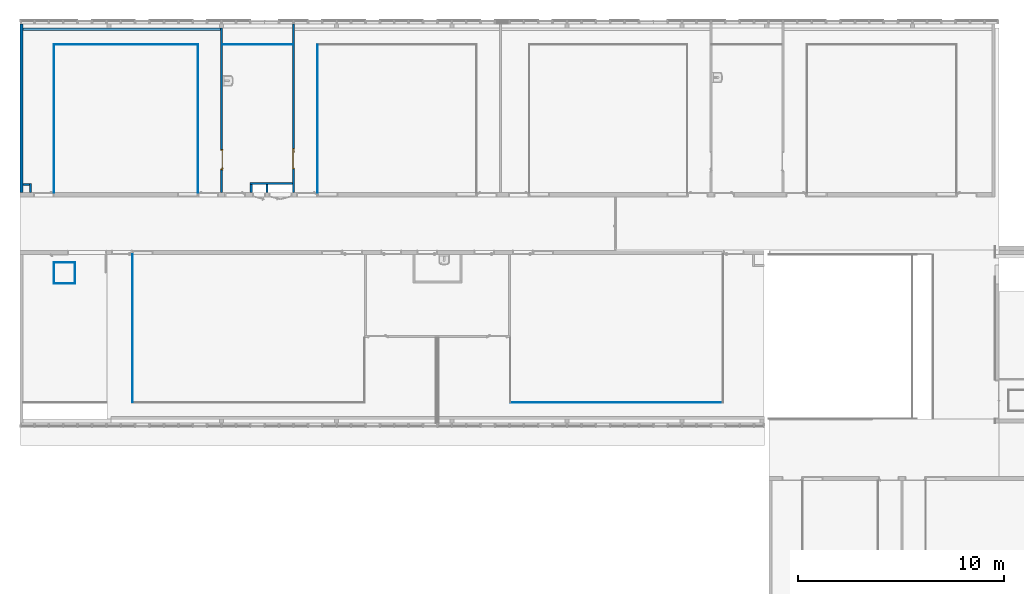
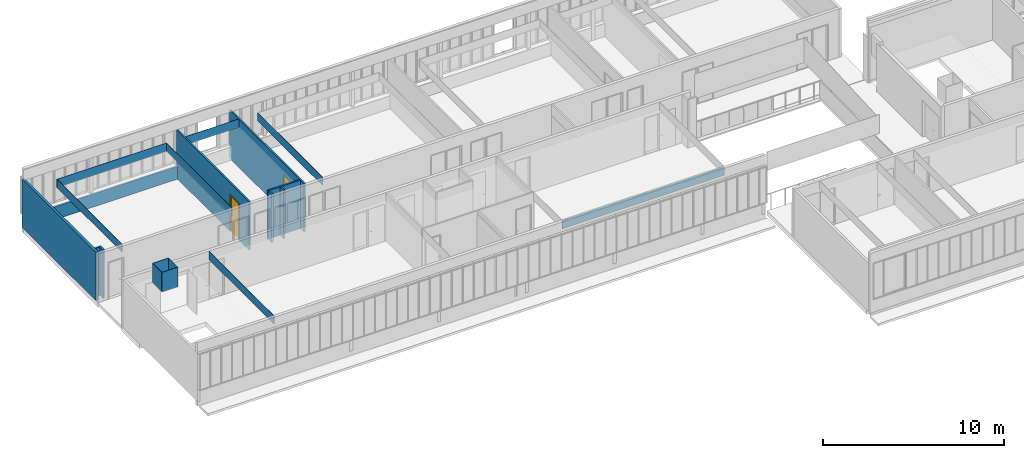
# One storey, part 28 of 87: 20 walls, 2 doors, 2 openings.
"""IFC2X3 building model written with IfcOpenShell, lengths in centimetres."""

import ifcopenshell
import ifcopenshell.guid

model = None  # the IFC model being written
_history = None  # IfcOwnerHistory: only IFC2X3 demands one
_inside = {}  # id of a spatial element -> (the spatial element, [elements in it])
_under = {}  # id of a project, library or spatial element -> (it, [spatial elements below it])
_declared = {}  # id of a project -> (the project, [libraries it declares])
_typed = {}  # id of a type object -> (the type object, [elements of that type])
_made_of = {}  # id of a material, layer set ... -> (it, [elements and type objects made of it])


def new_model(schema):
    """Start an empty IFC model of exactly this schema.

    Asked for "IFC4X3", IfcOpenShell would pick the latest addendum, in which some entities
    have other attributes; the version numbers below select the first issue.
    IFC2X3 requires an IfcOwnerHistory on every rooted entity: one is made here for all.
    """
    global model, _history
    if schema == "IFC4X3":
        model = ifcopenshell.file(schema_version=(4, 3, 0, 0))
    else:
        model = ifcopenshell.file(schema=schema)
    _inside.clear()
    _under.clear()
    _declared.clear()
    _typed.clear()
    _made_of.clear()
    _history = None
    if model.schema == "IFC2X3":
        org = make("IfcOrganization", Name="unknown")
        user = make(
            "IfcPersonAndOrganization",
            ThePerson=make("IfcPerson", FamilyName="unknown"),
            TheOrganization=org,
        )
        app = make(
            "IfcApplication",
            ApplicationDeveloper=org,
            Version="unknown",
            ApplicationFullName="unknown",
            ApplicationIdentifier="unknown",
        )
        _history = make(
            "IfcOwnerHistory",
            OwningUser=user,
            OwningApplication=app,
            ChangeAction="ADDED",
            CreationDate=0,
        )
    return model


def make(cls, **values):
    """One entity of the class cls with the attributes given. An attribute that is None is left unset."""
    return model.create_entity(
        cls, **{name: value for name, value in values.items() if value is not None}
    )


def entity(cls, *values):
    """Any entity or typed value of the class cls, its attributes in the order of the schema. None: left unset."""
    e = model.create_entity(cls)
    for i, value in enumerate(values):
        if value is not None:
            e[i] = value
    return e


def rooted(cls, **values):
    """An entity with a GlobalId (a new one), such as an element, a storey or a relation."""
    return make(cls, GlobalId=ifcopenshell.guid.new(), OwnerHistory=_history, **values)


def si_unit(unit_type, name, prefix=None):
    """IfcSIUnit, for example si_unit("LENGTHUNIT", "METRE", prefix="MILLI")."""
    return make("IfcSIUnit", UnitType=unit_type, Prefix=prefix, Name=name)


def converted_unit(unit_type, name, factor, base, dimensions=None, offset=None):
    """IfcConversionBasedUnit, such as the inch: factor (a typed value) times the base unit."""
    return make(
        "IfcConversionBasedUnit"
        if offset is None
        else "IfcConversionBasedUnitWithOffset",
        ConversionOffset=offset,
        Dimensions=None
        if dimensions is None
        else entity("IfcDimensionalExponents", *dimensions),
        UnitType=unit_type,
        Name=name,
        ConversionFactor=make(
            "IfcMeasureWithUnit", ValueComponent=factor, UnitComponent=base
        ),
    )


def derived_unit(unit_type, elements):
    """IfcDerivedUnit: a product of units, each with its exponent."""
    return make(
        "IfcDerivedUnit",
        Elements=[
            make("IfcDerivedUnitElement", Unit=unit, Exponent=power)
            for unit, power in elements
        ],
        UnitType=unit_type,
    )


def assignment(units):
    """IfcUnitAssignment: the units of a project."""
    return None if units is None else make("IfcUnitAssignment", Units=units)


def point(xyz):
    """IfcCartesianPoint."""
    return None if xyz is None else make("IfcCartesianPoint", Coordinates=xyz)


def direction(xyz):
    """IfcDirection."""
    return None if xyz is None else make("IfcDirection", DirectionRatios=xyz)


def frame(location, z_axis=None, x_axis=None):
    """IfcAxis2Placement3D, a coordinate frame: its origin and axes. An axis left out is left unset."""
    return make(
        "IfcAxis2Placement3D",
        Location=point(location),
        Axis=direction(z_axis),
        RefDirection=direction(x_axis),
    )


def frame_2d(location, x_axis=None):
    """IfcAxis2Placement2D, a coordinate frame in the plane: its origin and x axis."""
    return make(
        "IfcAxis2Placement2D", Location=point(location), RefDirection=direction(x_axis)
    )


def origin():
    """The frame at (0, 0, 0) with its axes left unset."""
    return frame((0.0, 0.0, 0.0))


def place(relative_to, where):
    """IfcLocalPlacement: puts the frame where relative to a parent placement (None: the world)."""
    return make(
        "IfcLocalPlacement", PlacementRelTo=relative_to, RelativePlacement=where
    )


def context(
    kind, dimensions, precision=None, world=None, true_north=None, identifier=None
):
    """IfcGeometricRepresentationContext, for example the 3D "Model" context."""
    return make(
        "IfcGeometricRepresentationContext",
        ContextIdentifier=identifier,
        ContextType=kind,
        CoordinateSpaceDimension=dimensions,
        Precision=precision,
        WorldCoordinateSystem=world,
        TrueNorth=true_north,
    )


def subcontext(parent, identifier, kind, view, scale=None):
    """IfcGeometricRepresentationSubContext, for example "Body" below "Model"."""
    return make(
        "IfcGeometricRepresentationSubContext",
        ContextIdentifier=identifier,
        ContextType=kind,
        ParentContext=parent,
        TargetScale=scale,
        TargetView=view,
    )


def project(units=None, contexts=None):
    """IfcProject with its units and contexts."""
    return rooted(
        "IfcProject",
        Name="project",
        RepresentationContexts=contexts,
        UnitsInContext=assignment(units),
    )


def spatial(cls, under=None, at=None, **own):
    """A site, building, storey or space (cls), placed at a placement, below another one or the project."""
    s = rooted(cls, ObjectPlacement=at, **own)
    if under is not None:
        _under.setdefault(under.id(), (under, []))[1].append(s)
    return s


def profile(cls, at=None, kind="AREA", **sizes):
    """A parametric profile (cls). Its sizes go by their IFC names, for example OverallWidth=200.0."""
    return make(cls, ProfileType=kind, Position=at, **sizes)


def rectangle(**sizes):
    """IfcRectangleProfileDef."""
    return profile("IfcRectangleProfileDef", **sizes)


def extrude(swept, where, along, depth):
    """IfcExtrudedAreaSolid: the profile swept, set in the frame where, extruded along a direction by depth."""
    return make(
        "IfcExtrudedAreaSolid",
        SweptArea=swept,
        Position=where,
        ExtrudedDirection=direction(along),
        Depth=depth,
    )


def faces_of(points, faces, orient=None, outer=None):
    """IfcFace entities. A face is a list of loops; a loop is a list of indices into points, from 0.

    orient and outer hold one flag for each loop. By default every Orientation is true, the
    first loop of a face is its IfcFaceOuterBound and the others are IfcFaceBound.
    """
    made = []
    for i, loops in enumerate(faces):
        bounds = []
        for j, loop in enumerate(loops):
            is_outer = j == 0 if outer is None else outer[i][j]
            bounds.append(
                make(
                    "IfcFaceOuterBound" if is_outer else "IfcFaceBound",
                    Bound=make("IfcPolyLoop", Polygon=[points[k] for k in loop]),
                    Orientation=True if orient is None else orient[i][j],
                )
            )
        made.append(make("IfcFace", Bounds=bounds))
    return made


def faceted_brep(points, faces, orient=None, outer=None, voids=None):
    """IfcFacetedBrep: a solid bounded by flat faces; with voids (closed shells), ...WithVoids."""
    shared = [point(p) for p in points]
    hull = make("IfcClosedShell", CfsFaces=faces_of(shared, faces, orient, outer))
    if voids is None:
        return make("IfcFacetedBrep", Outer=hull)
    return make(
        "IfcFacetedBrepWithVoids",
        Outer=hull,
        Voids=[
            make(cls, CfsFaces=faces_of(shared, fs, o, b)) for cls, fs, o, b in voids
        ],
    )


def shape(context_of_items, identifier, shape_type, items):
    """IfcShapeRepresentation: the items that make up one representation, for example the "Body"."""
    return make(
        "IfcShapeRepresentation",
        ContextOfItems=context_of_items,
        RepresentationIdentifier=identifier,
        RepresentationType=shape_type,
        Items=items,
    )


def source(mapping_origin, context_of_items, identifier, shape_type, items):
    """IfcRepresentationMap: a shape defined once, which mapped items show again and again."""
    return make(
        "IfcRepresentationMap",
        MappingOrigin=mapping_origin,
        MappedRepresentation=shape(context_of_items, identifier, shape_type, items),
    )


def transform(
    local_origin,
    x_axis=None,
    y_axis=None,
    z_axis=None,
    scale=None,
    scale2=None,
    scale3=None,
    uniform=True,
):
    """IfcCartesianTransformationOperator3D, or its non-uniform kind. x_axis, y_axis, z_axis: its Axis1, 2, 3."""
    if uniform:
        return make(
            "IfcCartesianTransformationOperator3D",
            Axis1=direction(x_axis),
            Axis2=direction(y_axis),
            LocalOrigin=point(local_origin),
            Scale=scale,
            Axis3=direction(z_axis),
        )
    return make(
        "IfcCartesianTransformationOperator3DnonUniform",
        Axis1=direction(x_axis),
        Axis2=direction(y_axis),
        LocalOrigin=point(local_origin),
        Scale=scale,
        Axis3=direction(z_axis),
        Scale2=scale2,
        Scale3=scale3,
    )


def mapped(mapping_source, mapping_target):
    """IfcMappedItem: shows the shape of a source again, moved by a transform."""
    return make(
        "IfcMappedItem", MappingSource=mapping_source, MappingTarget=mapping_target
    )


def material(Name=None, Category=None):
    """IfcMaterial."""
    return make("IfcMaterial", Name=Name, Category=Category)


def material_list(materials):
    """IfcMaterialList."""
    return make("IfcMaterialList", Materials=materials)


def layer(
    of_material, thickness, ventilated=None, Name=None, Category=None, Priority=None
):
    """IfcMaterialLayer: one layer of a wall or slab, of a material (None: an air gap)."""
    return make(
        "IfcMaterialLayer",
        Material=of_material,
        LayerThickness=thickness,
        IsVentilated=ventilated,
        Name=Name,
        Category=Category,
        Priority=Priority,
    )


def layer_set(layers, Name=None):
    """IfcMaterialLayerSet."""
    return make("IfcMaterialLayerSet", MaterialLayers=layers, LayerSetName=Name)


def layer_usage(for_layer_set, set_direction, sense, offset, extent=None):
    """IfcMaterialLayerSetUsage: how a layer set lies in its element."""
    return make(
        "IfcMaterialLayerSetUsage",
        ForLayerSet=for_layer_set,
        LayerSetDirection=set_direction,
        DirectionSense=sense,
        OffsetFromReferenceLine=offset,
        ReferenceExtent=extent,
    )


def made_of(thing, what):
    """Note that an element or type object is made of a material, layer set ...; save() writes the relation."""
    if what is not None:
        _made_of.setdefault(what.id(), (what, []))[1].append(thing)
    return thing


def type_object(cls, material=None, **own):
    """A type object (cls), such as IfcWallType, which elements share."""
    return made_of(rooted(cls, **own), material)


def type_shapes(of_type, sources):
    """Give a type object the sources (RepresentationMaps) that its elements show as mapped items."""
    of_type.RepresentationMaps = sources


def element(
    cls,
    number,
    at=None,
    inside=None,
    cuts=None,
    type_object=None,
    material=None,
    context=None,
    identifier="Body",
    shape_type=None,
    held_by="IfcProductDefinitionShape",
    body=None,
    shapes=None,
    **own,
):
    """One element of the class cls, such as IfcWall. Its Tag is "e" and its number.

    at: its placement. inside: the storey or other place that contains it. cuts: it is an
    opening in that element (IfcRelVoidsElement). A single representation is given by context,
    identifier, shape_type and body (its items); several are given by shapes. held_by: the class
    of the entity that holds the representations. save() writes the other relations.
    """
    e = rooted(cls, Tag="e%d" % number, ObjectPlacement=at, **own)
    if body is not None:
        shapes = [shape(context, identifier, shape_type, body)]
    if shapes is not None:
        e.Representation = make(held_by, Representations=shapes)
    if inside is not None:
        _inside.setdefault(inside.id(), (inside, []))[1].append(e)
    if cuts is not None:
        rooted(
            "IfcRelVoidsElement", RelatingBuildingElement=cuts, RelatedOpeningElement=e
        )
    if type_object is not None:
        _typed.setdefault(type_object.id(), (type_object, []))[1].append(e)
    return made_of(e, material)


def fill(opening, filler):
    """IfcRelFillsElement: the door or window that sits in an opening."""
    return rooted(
        "IfcRelFillsElement",
        RelatingOpeningElement=opening,
        RelatedBuildingElement=filler,
    )


def aggregate(whole, parts):
    """IfcRelAggregates: a whole, such as a stair, and the parts it consists of."""
    return rooted("IfcRelAggregates", RelatingObject=whole, RelatedObjects=parts)


def save(model, path):
    """Write the relations noted so far, then the file.

    IfcRelAggregates (storeys below a building ...), IfcRelContainedInSpatialStructure (elements
    in a storey), IfcRelDefinesByType, IfcRelAssociatesMaterial and IfcRelDeclares: one each for
    every whole, place, type object, material and project.
    """
    for whole, parts in _under.values():
        aggregate(whole, parts)
    for where, things in _inside.values():
        rooted(
            "IfcRelContainedInSpatialStructure",
            RelatedElements=things,
            RelatingStructure=where,
        )
    for kind, things in _typed.values():
        rooted("IfcRelDefinesByType", RelatedObjects=things, RelatingType=kind)
    for what, things in _made_of.values():
        rooted("IfcRelAssociatesMaterial", RelatedObjects=things, RelatingMaterial=what)
    for by, libraries in _declared.values():
        rooted("IfcRelDeclares", RelatingContext=by, RelatedDefinitions=libraries)
    model.write(path)


model = new_model("IFC2X3")

# Units and contexts
model_context = context("Model", 3, precision=0.001, world=origin(), true_north=direction((6.12303176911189e-17, 1.0)))
body_context = subcontext(model_context, "Body", "Model", "MODEL_VIEW")
ifc_project = project(units=[si_unit("LENGTHUNIT", "METRE", prefix="CENTI"), si_unit("AREAUNIT", "SQUARE_METRE"), si_unit("VOLUMEUNIT", "CUBIC_METRE"), converted_unit("PLANEANGLEUNIT", "DEGREE", entity("IfcRatioMeasure", 0.0174532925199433), si_unit("PLANEANGLEUNIT", "RADIAN"), dimensions=[0, 0, 0, 0, 0, 0, 0]), si_unit("MASSUNIT", "GRAM", prefix="KILO"), derived_unit("MASSDENSITYUNIT", [(si_unit("MASSUNIT", "GRAM", prefix="KILO"), 1), (si_unit("LENGTHUNIT", "METRE"), -3)]), si_unit("TIMEUNIT", "SECOND"), si_unit("FREQUENCYUNIT", "HERTZ"), si_unit("THERMODYNAMICTEMPERATUREUNIT", "DEGREE_CELSIUS"), derived_unit("THERMALTRANSMITTANCEUNIT", [(si_unit("MASSUNIT", "GRAM", prefix="KILO"), 1), (si_unit("THERMODYNAMICTEMPERATUREUNIT", "KELVIN"), -1), (si_unit("TIMEUNIT", "SECOND"), -3)]), derived_unit("VOLUMETRICFLOWRATEUNIT", [(si_unit("LENGTHUNIT", "METRE"), 3), (si_unit("TIMEUNIT", "SECOND"), -1)]), si_unit("ELECTRICCURRENTUNIT", "AMPERE"), si_unit("ELECTRICVOLTAGEUNIT", "VOLT"), si_unit("POWERUNIT", "WATT"), si_unit("FORCEUNIT", "NEWTON", prefix="KILO"), si_unit("ILLUMINANCEUNIT", "LUX"), si_unit("LUMINOUSFLUXUNIT", "LUMEN"), si_unit("LUMINOUSINTENSITYUNIT", "CANDELA"), derived_unit("USERDEFINED", [(si_unit("MASSUNIT", "GRAM", prefix="KILO"), -1), (si_unit("LENGTHUNIT", "METRE"), -2), (si_unit("TIMEUNIT", "SECOND"), 3), (si_unit("LUMINOUSFLUXUNIT", "LUMEN"), 1)]), derived_unit("LINEARVELOCITYUNIT", [(si_unit("LENGTHUNIT", "METRE"), 1), (si_unit("TIMEUNIT", "SECOND"), -1)]), si_unit("PRESSUREUNIT", "PASCAL"), derived_unit("USERDEFINED", [(si_unit("LENGTHUNIT", "METRE"), -2), (si_unit("MASSUNIT", "GRAM", prefix="KILO"), 1), (si_unit("TIMEUNIT", "SECOND"), -2)])], contexts=[model_context])

# Site, building, storey
site_placement = place(None, frame((-2781.94577612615, 7442.24238424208, 0.0)))
site = spatial("IfcSite", under=ifc_project, at=site_placement, Name="Default", CompositionType="ELEMENT")
building_placement = place(site_placement, origin())
building = spatial("IfcBuilding", under=site, at=building_placement, CompositionType="ELEMENT")
storey_placement = place(building_placement, frame((0.0, 0.0, 774.0)))
storey = spatial("IfcBuildingStorey", under=building, at=storey_placement, Name="TR - N02 - ARCH", CompositionType="ELEMENT", Elevation=774.0)

# Wall
ifc_material_1 = material(Name="00 - Isolant")
ifc_layer_1 = layer(ifc_material_1, 14.0)
ifc_material_2 = material(Name="01 - Enduit/Plâtre")
ifc_layer_2 = layer(ifc_material_2, 1.3)
ifc_layer_set_1 = layer_set([ifc_layer_1, ifc_layer_2], Name="Mur de base:04 - Parement -  isolant 14 cm + BA13")
ifc_layer_usage_1 = layer_usage(ifc_layer_set_1, "AXIS2", "NEGATIVE", 7.65)
wall_type_1 = type_object("IfcWallType", Name="Mur de base:04 - Parement -  isolant 14 cm + BA13", PredefinedType="STANDARD", material=ifc_layer_set_1)
wall_1_placement = place(storey_placement, frame((-8401.84987766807, -810.048500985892, 0.0), z_axis=(0.0, 0.0, 1.0), x_axis=(0.0, 1.0, 0.0)))
element("IfcWallStandardCase", 1, at=wall_1_placement, inside=storey, type_object=wall_type_1, material=ifc_layer_usage_1, Name="Mur de base:04 - Parement -  isolant 14 cm + BA13", ObjectType="Mur de base:04 - Parement -  isolant 14 cm + BA13", context=body_context, shape_type="SweptSolid", body=[
    extrude(rectangle(XDim=820.048500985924, YDim=15.3000000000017, at=frame_2d((410.024250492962, -1.18127729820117e-13), x_axis=(-1.0, 0.0))), origin(), (0.0, 0.0, 1.0), 326.0),
])

# Wall, opening, door
ifc_layer_3 = layer(ifc_material_2, 1.3)
ifc_layer_4 = layer(ifc_material_1, 7.4)
ifc_layer_5 = layer(ifc_material_2, 1.3)
ifc_layer_set_2 = layer_set([ifc_layer_3, ifc_layer_4, ifc_layer_5], Name="Mur de base:06 - cloisons - Ba13 10cm")
ifc_layer_usage_2 = layer_usage(ifc_layer_set_2, "AXIS2", "NEGATIVE", 5.0)
wall_type_2 = type_object("IfcWallType", Name="Mur de base:06 - cloisons - Ba13 10cm", PredefinedType="STANDARD", material=ifc_layer_set_2)
wall_2_placement = place(storey_placement, frame((-7079.49987760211, -810.048500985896, 0.0), z_axis=(0.0, 0.0, 1.0), x_axis=(0.0, 1.0, 0.0)))
wall_2 = element("IfcWallStandardCase", 2, at=wall_2_placement, inside=storey, type_object=wall_type_2, material=ifc_layer_usage_2, Name="Mur de base:06 - cloisons - Ba13 10cm", ObjectType="Mur de base:06 - cloisons - Ba13 10cm", context=body_context, shape_type="SweptSolid", body=[
    extrude(rectangle(XDim=820.048500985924, YDim=9.99999999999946, at=frame_2d((410.024250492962, 1.06581410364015e-14), x_axis=(-1.0, 0.0))), origin(), (0.0, 0.0, 1.0), 326.0),
])
opening_1_placement = place(wall_2_placement, frame((115.0, -5.0, 0.0)))
opening_1 = element("IfcOpeningElement", 3, at=opening_1_placement, cuts=wall_2, Name="Int. Simple:PP simple (0.93m x 2.50m):1", ObjectType="Opening", context=body_context, shape_type="SweptSolid", body=[
    extrude(rectangle(XDim=248.500000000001, YDim=99.9999999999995, at=frame_2d((124.250000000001, 49.9999999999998), x_axis=(1.0, 0.0))), frame((0.0, 0.0, 0.0), z_axis=(0.0, 1.0, 0.0), x_axis=(0.0, 0.0, 1.0)), (0.0, 0.0, 1.0), 10.0),
])
ifc_material_3 = material(Name="Finition Peinture - Blanc satiné")
ifc_material_4 = material(Name="Bois - Panneau de porte")
ifc_material_5 = material(Name="Bois - Cadre de porte")
ifc_material_list_1 = material_list([ifc_material_3, ifc_material_4, ifc_material_5])
ifc_material_list_2 = material_list([ifc_material_3, ifc_material_4, ifc_material_5])
door_style = type_object("IfcDoorStyle", Name="PP simple (0.93m x 2.50m)", ConstructionType="NOTDEFINED", OperationType="SINGLE_SWING_LEFT", ParameterTakesPrecedence=False, Sizeable=False, material=ifc_material_list_2)
shared_shape = source(origin(), body_context, "Body", "Brep", [
    faceted_brep([(10.5352761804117, -0.500000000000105, 86.6003983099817), (11.5000000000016, -0.500000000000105, 87.0), (11.5000000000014, -0.500000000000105, 108.0), (10.5352761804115, -0.500000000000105, 108.399601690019), (9.50000000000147, -0.500000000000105, 108.535898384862), (8.46472381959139, -0.500000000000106, 108.399601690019), (7.50000000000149, -0.500000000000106, 108.0), (7.50000000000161, -0.500000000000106, 87.0), (8.46472381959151, -0.500000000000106, 86.6003983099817), (9.50000000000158, -0.500000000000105, 86.464101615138), (10.5352761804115, 0.0, 108.399601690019), (11.5000000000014, 0.0, 108.0), (11.5000000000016, 0.0, 87.0), (10.5352761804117, 0.0, 86.6003983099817), (9.50000000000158, 0.0, 86.464101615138), (8.46472381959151, 0.0, 86.6003983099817), (7.50000000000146, 0.0, 87.0), (7.50000000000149, 0.0, 108.0), (8.46472381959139, 0.0, 108.399601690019), (9.50000000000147, 0.0, 108.535898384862)], [[[0, 1, 2, 3, 4, 5, 6, 7, 8, 9]], [[10, 11, 12, 13, 14, 15, 16, 17, 18, 19]], [[16, 15, 8, 7]], [[8, 15, 14, 9]], [[14, 13, 0, 9]], [[13, 12, 1, 0]], [[2, 1, 12, 11]], [[11, 10, 3, 2]], [[3, 10, 19, 4]], [[19, 18, 5, 4]], [[18, 17, 6, 5]], [[7, 6, 17, 16]]]),
    faceted_brep([(10.5352761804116, 4.0, 86.6003983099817), (11.5000000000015, 4.0, 87.0), (11.5000000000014, 4.0, 108.0), (10.5352761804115, 4.0, 108.399601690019), (9.50000000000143, 4.0, 108.535898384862), (8.46472381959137, 4.0, 108.399601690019), (7.50000000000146, 4.0, 108.0), (7.50000000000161, 4.0, 87.0), (8.46472381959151, 4.0, 86.6003983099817), (9.50000000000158, 4.0, 86.464101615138), (10.5352761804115, 4.49999999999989, 108.399601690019), (11.5000000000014, 4.49999999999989, 108.0), (11.5000000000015, 4.49999999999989, 87.0), (10.5352761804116, 4.49999999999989, 86.6003983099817), (9.50000000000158, 4.49999999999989, 86.464101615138), (8.46472381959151, 4.49999999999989, 86.6003983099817), (7.50000000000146, 4.49999999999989, 87.0), (7.50000000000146, 4.49999999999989, 108.0), (8.46472381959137, 4.49999999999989, 108.399601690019), (9.50000000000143, 4.49999999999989, 108.535898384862)], [[[0, 1, 2, 3, 4, 5, 6, 7, 8, 9]], [[10, 11, 12, 13, 14, 15, 16, 17, 18, 19]], [[11, 10, 3, 2]], [[3, 10, 19, 4]], [[19, 18, 5, 4]], [[18, 17, 6, 5]], [[7, 6, 17, 16]], [[16, 15, 8, 7]], [[8, 15, 14, 9]], [[14, 13, 0, 9]], [[13, 12, 1, 0]], [[2, 1, 12, 11]]]),
    faceted_brep([(9.29747013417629, -0.500000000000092, 100.778044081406), (9.70252986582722, -0.50000000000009, 100.778044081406), (10.1000000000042, -0.500000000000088, 100.699999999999), (10.1000000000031, -0.500000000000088, 99.3000000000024), (9.7025298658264, -0.50000000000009, 99.2219559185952), (9.29747013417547, -0.500000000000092, 99.221955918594), (8.8999999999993, -0.500000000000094, 99.2999999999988), (8.89999999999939, -0.500000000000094, 100.7), (8.89999999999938, -3.26509507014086, 100.7), (9.29747013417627, -3.10045754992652, 100.778044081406), (10.9023585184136, -4.70534593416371, 100.778044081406), (11.0701397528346, -4.30028620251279, 100.778044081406), (9.7025298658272, -2.93267631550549, 100.778044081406), (10.1000000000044, -2.76803879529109, 100.7), (10.1000000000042, -2.76803879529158, 99.3000000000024), (9.7025298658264, -2.93267631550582, 99.2219559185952), (11.0701397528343, -4.30028620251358, 99.2219559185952), (10.9023585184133, -4.70534593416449, 99.221955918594), (9.29747013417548, -3.10045754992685, 99.221955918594), (8.89999999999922, -3.26509507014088, 99.2999999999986), (10.7377209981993, -5.10281606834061, 100.7), (11.2347772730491, -3.90281606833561, 100.7), (11.2347772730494, -3.90281606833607, 99.3000000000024), (10.7377209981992, -5.10281606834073, 99.2999999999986), (19.5018640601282, -5.10281606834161, 99.2999999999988), (19.5018640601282, -4.70534593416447, 99.221955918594), (19.5018640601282, -4.30028620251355, 99.2219559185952), (19.5018640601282, -3.9028160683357, 99.3000000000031), (19.5018640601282, -3.90281606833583, 100.7), (19.5018640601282, -4.30028620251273, 100.778044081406), (19.5018640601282, -4.70534593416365, 100.778044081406), (19.5018640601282, -5.10281606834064, 100.699999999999), (14.7307697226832, -5.10281606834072, 100.7), (15.2860019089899, -4.5028160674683, 100.78786867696), (15.3683206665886, -3.9028160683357, 100.7), (15.3683206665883, -3.9028160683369, 99.3000000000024), (15.2860018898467, -4.50281607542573, 99.2121313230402), (14.7307700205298, -5.10281606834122, 99.2999999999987)], [[[0, 1, 2, 3, 4, 5, 6, 7]], [[8, 9, 0, 7]], [[9, 10, 11, 12, 1, 0]], [[12, 13, 2, 1]], [[3, 2, 13, 14]], [[14, 15, 4, 3]], [[15, 16, 17, 18, 5, 4]], [[18, 19, 6, 5]], [[7, 6, 19, 8]], [[20, 10, 9, 8]], [[11, 21, 13, 12]], [[14, 13, 21, 22]], [[22, 16, 15, 14]], [[17, 23, 19, 18]], [[8, 19, 23, 20]], [[24, 25, 26, 27, 28, 29, 30, 31]], [[32, 30, 33]], [[31, 30, 32]], [[10, 20, 32]], [[33, 34, 11]], [[21, 11, 34]], [[34, 29, 28]], [[30, 29, 33]], [[29, 34, 33]], [[10, 32, 33]], [[10, 33, 11]], [[22, 21, 34, 28, 27, 35]], [[35, 26, 36]], [[37, 36, 25]], [[22, 35, 16]], [[35, 27, 26]], [[24, 37, 25]], [[23, 17, 37]], [[37, 17, 36]], [[17, 16, 36]], [[16, 35, 36]], [[25, 36, 26]], [[20, 23, 37, 24, 31, 32]]]),
    faceted_brep([(9.29747013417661, 4.49999999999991, 100.778044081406), (8.89999999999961, 4.4999999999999, 100.7), (8.89999999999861, 4.4999999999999, 99.2999999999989), (9.29747013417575, 4.49999999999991, 99.221955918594), (9.70252986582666, 4.49999999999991, 99.2219559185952), (10.1000000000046, 4.49999999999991, 99.3000000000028), (10.1000000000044, 4.49999999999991, 100.7), (9.70252986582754, 4.49999999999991, 100.778044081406), (10.1000000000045, 6.7485204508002, 99.3000000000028), (10.1000000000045, 6.74852045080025, 100.7), (9.70252986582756, 6.91315797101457, 100.778044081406), (11.083890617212, 8.29451872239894, 100.778044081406), (10.916109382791, 8.69957845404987, 100.778044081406), (9.29747013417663, 7.0809392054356, 100.778044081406), (8.89999999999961, 7.24557672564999, 100.7), (8.89999999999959, 7.2455767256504, 99.2999999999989), (9.29747013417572, 7.08093920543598, 99.221955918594), (10.9161093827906, 8.69957845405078, 99.221955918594), (11.0838906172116, 8.29451872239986, 99.2219559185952), (9.70252986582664, 6.91315797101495, 99.2219559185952), (11.2485281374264, 7.89704858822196, 99.3000000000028), (11.2485281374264, 7.89704858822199, 100.7), (10.7514718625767, 9.09704858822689, 100.7), (10.7514718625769, 9.0970485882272, 99.2999999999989), (19.5045783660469, 7.89704858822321, 99.3000000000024), (19.5045783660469, 8.29451872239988, 99.2219559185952), (19.5045783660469, 8.6995784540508, 99.221955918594), (19.5045783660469, 9.09704858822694, 99.2999999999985), (19.5045783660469, 9.09704858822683, 100.7), (19.5045783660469, 8.69957845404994, 100.778044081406), (19.5045783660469, 8.29451872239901, 100.778044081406), (19.5045783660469, 7.89704858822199, 100.7), (15.3765520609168, 7.89704858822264, 99.3000000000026), (15.3765532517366, 7.89704858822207, 100.7), (15.294234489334, 8.49704858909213, 100.78786867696), (14.7445205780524, 9.09704858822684, 100.7), (14.7445204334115, 9.09704858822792, 99.2999999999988), (15.2942345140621, 8.49704858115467, 99.2121313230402)], [[[0, 1, 2, 3, 4, 5, 6, 7]], [[6, 5, 8, 9]], [[9, 10, 7, 6]], [[10, 11, 12, 13, 0, 7]], [[13, 14, 1, 0]], [[2, 1, 14, 15]], [[15, 16, 3, 2]], [[16, 17, 18, 19, 4, 3]], [[19, 8, 5, 4]], [[9, 8, 20, 21]], [[21, 11, 10, 9]], [[12, 22, 14, 13]], [[15, 14, 22, 23]], [[23, 17, 16, 15]], [[18, 20, 8, 19]], [[24, 25, 26, 27, 28, 29, 30, 31]], [[21, 20, 32, 24, 31, 33]], [[33, 30, 34]], [[35, 34, 29]], [[21, 33, 11]], [[33, 31, 30]], [[28, 35, 29]], [[22, 12, 35]], [[35, 12, 34]], [[12, 11, 34]], [[11, 33, 34]], [[29, 34, 30]], [[22, 35, 28, 27, 36, 23]], [[36, 26, 37]], [[27, 26, 36]], [[17, 23, 36]], [[37, 32, 18]], [[20, 18, 32]], [[32, 25, 24]], [[26, 25, 37]], [[25, 32, 37]], [[17, 36, 37]], [[17, 37, 18]]]),
    faceted_brep([(3.50000000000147, 4.0, 245.0), (96.5000000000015, 4.0, 245.0), (96.5000000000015, 4.0, 0.0), (3.50000000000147, 4.0, 0.0), (3.50000000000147, 0.0, 245.0), (3.50000000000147, 0.0, 0.0), (96.5000000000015, 0.0, 0.0), (96.5000000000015, 0.0, 245.0)], [[[0, 1, 2, 3]], [[4, 5, 6, 7]], [[1, 0, 4, 7]], [[2, 1, 7, 6]], [[3, 2, 6, 5]], [[0, 3, 5, 4]]]),
    faceted_brep([(0.0, 10.0, 0.0), (-1.50000000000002, 10.0, 0.0), (-1.50000000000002, 10.5000000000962, 0.0), (5.0, 10.5000000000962, 0.0), (5.0, 4.0, 0.0), (3.50000000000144, 4.0, 0.0), (3.50000000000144, -0.500000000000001, 0.0), (-1.50000000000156, -0.500000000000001, 0.0), (-1.50000000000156, 0.0, 0.0), (0.0, 0.0, 0.0), (0.0, 0.0, 248.500000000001), (0.0, 10.0, 248.500000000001), (100.0, 10.0, 248.500000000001), (100.0, 10.0, 0.0), (101.5, 10.0, 0.0), (101.5, 10.0, 250.0), (-1.50000000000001, 10.0, 250.0), (5.0, 10.5000000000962, 243.5), (5.0, 4.0, 243.5), (95.0, 4.0, 243.5), (95.0, 4.0, 0.0), (96.499999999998, 4.0, 0.0), (96.499999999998, 4.0, 245.0), (3.50000000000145, 4.0, 245.0), (100.0, 0.0, 248.500000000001), (100.0, 0.0, 0.0), (101.500000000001, 0.0, 0.0), (101.500000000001, -0.500000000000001, 0.0), (96.499999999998, -0.500000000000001, 0.0), (95.0, 10.5000000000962, 0.0), (101.5, 10.5000000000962, 0.0), (95.0, 10.5000000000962, 243.5), (3.50000000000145, -0.500000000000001, 245.0), (96.499999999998, -0.500000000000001, 245.0), (101.500000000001, -0.500000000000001, 250.0), (-1.50000000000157, -0.500000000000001, 250.0), (-1.50000000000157, 0.0, 250.0), (101.500000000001, 0.0, 250.0), (-1.50000000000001, 10.5000000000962, 250.0), (101.5, 10.5000000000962, 250.0)], [[[0, 1, 2, 3, 4, 5, 6, 7, 8, 9]], [[0, 9, 10, 11]], [[1, 0, 11, 12, 13, 14, 15, 16]], [[3, 17, 18, 4]], [[5, 4, 18, 19, 20, 21, 22, 23]], [[12, 24, 25, 13]], [[13, 25, 26, 27, 28, 21, 20, 29, 30, 14]], [[19, 31, 29, 20]], [[11, 10, 24, 12]], [[18, 17, 31, 19]], [[5, 23, 32, 6]], [[7, 6, 32, 33, 28, 27, 34, 35]], [[8, 7, 35, 36]], [[9, 8, 36, 37, 26, 25, 24, 10]], [[2, 1, 16, 38]], [[3, 2, 38, 39, 30, 29, 31, 17]], [[33, 22, 21, 28]], [[37, 34, 27, 26]], [[39, 15, 14, 30]], [[32, 23, 22, 33]], [[36, 35, 34, 37]], [[38, 16, 15, 39]]]),
])
type_shapes(door_style, [shared_shape])
door_1_placement = place(opening_1_placement, frame((100.0, 10.0, 0.0), z_axis=(0.0, 0.0, 1.0), x_axis=(-1.0, 0.0, 0.0)))
door_1 = element("IfcDoor", 4, at=door_1_placement, inside=storey, type_object=door_style, material=ifc_material_list_1, Name="Int. Simple:PP simple (0.93m x 2.50m)", ObjectType="Int. Simple:PP simple (0.93m x 2.50m)", OverallHeight=248.500000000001, OverallWidth=99.9999999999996, context=body_context, shape_type="MappedRepresentation", body=[
    mapped(shared_shape, transform((0.0, 0.0, 0.0), scale=1.0)),
])
fill(opening_1, door_1)

ifc_layer_usage_3 = layer_usage(ifc_layer_set_2, "AXIS2", "NEGATIVE", 5.0)
wall_3_placement = place(storey_placement, frame((-7428.79987968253, -10.0, 0.0), z_axis=(0.0, 0.0, 1.0), x_axis=(0.0, -1.0, 0.0)))
wall_3 = element("IfcWallStandardCase", 5, at=wall_3_placement, inside=storey, type_object=wall_type_2, material=ifc_layer_usage_3, Name="Mur de base:06 - cloisons - Ba13 10cm", ObjectType="Mur de base:06 - cloisons - Ba13 10cm", context=body_context, shape_type="SweptSolid", body=[
    extrude(rectangle(XDim=800.048500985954, YDim=9.99999999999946, at=frame_2d((400.024250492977, -2.08721928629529e-14), x_axis=(-1.0, 0.0))), origin(), (0.0, 0.0, 1.0), 326.0),
])
opening_2_placement = place(wall_3_placement, frame((590.048500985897, -5.0, 0.0)))
opening_2 = element("IfcOpeningElement", 6, at=opening_2_placement, cuts=wall_3, Name="Int. Simple:PP simple (0.93m x 2.50m):1", ObjectType="Opening", context=body_context, shape_type="SweptSolid", body=[
    extrude(rectangle(XDim=248.500000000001, YDim=99.9999999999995, at=frame_2d((124.250000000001, 49.9999999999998), x_axis=(1.0, 0.0))), frame((0.0, 0.0, 0.0), z_axis=(0.0, 1.0, 0.0), x_axis=(0.0, 0.0, 1.0)), (0.0, 0.0, 1.0), 10.0),
])
ifc_material_list_3 = material_list([ifc_material_3, ifc_material_4, ifc_material_5])
door_2_placement = place(opening_2_placement, frame((100.0, 10.0, 0.0), z_axis=(0.0, 0.0, 1.0), x_axis=(-1.0, 0.0, 0.0)))
door_2 = element("IfcDoor", 7, at=door_2_placement, inside=storey, type_object=door_style, material=ifc_material_list_3, Name="Int. Simple:PP simple (0.93m x 2.50m)", ObjectType="Int. Simple:PP simple (0.93m x 2.50m)", OverallHeight=248.500000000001, OverallWidth=99.9999999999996, context=body_context, shape_type="MappedRepresentation", body=[
    mapped(shared_shape, transform((0.0, 0.0, 0.0), scale=1.0)),
])
fill(opening_2, door_2)

# Walls
ifc_layer_usage_4 = layer_usage(ifc_layer_set_2, "AXIS2", "NEGATIVE", 5.0)
wall_4_placement = place(storey_placement, frame((-7084.49987760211, -765.048500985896, 0.0), z_axis=(0.0, 0.0, 1.0), x_axis=(-1.0, 0.0, 0.0)))
element("IfcWallStandardCase", 8, at=wall_4_placement, inside=storey, type_object=wall_type_2, material=ifc_layer_usage_4, Name="Mur de base:06 - cloisons - Ba13 10cm", ObjectType="Mur de base:06 - cloisons - Ba13 10cm", context=body_context, shape_type="SweptSolid", body=[
    extrude(rectangle(XDim=205.300002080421, YDim=10.0000000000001, at=frame_2d((102.65000104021, -2.75335310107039e-14), x_axis=(-1.0, 0.0))), origin(), (0.0, 0.0, 1.0), 326.0),
])
ifc_layer_usage_5 = layer_usage(ifc_layer_set_2, "AXIS2", "NEGATIVE", 5.0)
wall_5_placement = place(storey_placement, frame((-7284.79987968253, -770.048500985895, 0.0), z_axis=(0.0, 0.0, 1.0), x_axis=(0.0, -1.0, 0.0)))
element("IfcWallStandardCase", 9, at=wall_5_placement, inside=storey, type_object=wall_type_2, material=ifc_layer_usage_5, Name="Mur de base:06 - cloisons - Ba13 10cm", ObjectType="Mur de base:06 - cloisons - Ba13 10cm", context=body_context, shape_type="SweptSolid", body=[
    extrude(rectangle(XDim=40.0000000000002, YDim=9.99999999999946, at=frame_2d((20.0000000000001, 0.0), x_axis=(-1.0, 0.0))), origin(), (0.0, 0.0, 1.0), 326.0),
])
ifc_layer_usage_6 = layer_usage(ifc_layer_set_2, "AXIS2", "NEGATIVE", 5.0)
wall_6_placement = place(storey_placement, frame((-7208.79987968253, -770.048500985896, 0.0), z_axis=(0.0, 0.0, 1.0), x_axis=(0.0, -1.0, 0.0)))
element("IfcWallStandardCase", 10, at=wall_6_placement, inside=storey, type_object=wall_type_2, material=ifc_layer_usage_6, Name="Mur de base:06 - cloisons - Ba13 10cm", ObjectType="Mur de base:06 - cloisons - Ba13 10cm", context=body_context, shape_type="SweptSolid", body=[
    extrude(rectangle(XDim=40.0000000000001, YDim=9.99999999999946, at=frame_2d((20.0000000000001, 0.0), x_axis=(-1.0, 0.0))), origin(), (0.0, 0.0, 1.0), 326.0),
])
ifc_layer_usage_7 = layer_usage(ifc_layer_set_2, "AXIS2", "NEGATIVE", 5.0)
wall_7_placement = place(storey_placement, frame((-8359.19987766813, -810.048500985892, 0.0), z_axis=(0.0, 0.0, 1.0), x_axis=(0.0, 1.0, 0.0)))
element("IfcWallStandardCase", 11, at=wall_7_placement, inside=storey, type_object=wall_type_2, material=ifc_layer_usage_7, Name="Mur de base:06 - cloisons - Ba13 10cm", ObjectType="Mur de base:06 - cloisons - Ba13 10cm", context=body_context, shape_type="SweptSolid", body=[
    extrude(rectangle(XDim=44.9999999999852, YDim=10.0000000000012, at=frame_2d((22.4999999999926, 0.0), x_axis=(-1.0, 0.0))), origin(), (0.0, 0.0, 1.0), 326.0),
])
ifc_layer_usage_8 = layer_usage(ifc_layer_set_2, "AXIS2", "NEGATIVE", 5.0)
wall_8_placement = place(storey_placement, frame((-8364.19987766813, -770.048500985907, 0.0), z_axis=(0.0, 0.0, 1.0), x_axis=(-1.0, 0.0, 0.0)))
element("IfcWallStandardCase", 12, at=wall_8_placement, inside=storey, type_object=wall_type_2, material=ifc_layer_usage_8, Name="Mur de base:06 - cloisons - Ba13 10cm", ObjectType="Mur de base:06 - cloisons - Ba13 10cm", context=body_context, shape_type="SweptSolid", body=[
    extrude(rectangle(XDim=29.9999999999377, YDim=10.0000000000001, at=frame_2d((14.9999999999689, -9.32587340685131e-15), x_axis=(-1.0, 0.0))), origin(), (0.0, 0.0, 1.0), 326.0),
])
ifc_layer_6 = layer(ifc_material_2, 1.3)
ifc_material_6 = material(Name="00 - VIDE D'AIR")
ifc_layer_7 = layer(ifc_material_6, 0.7)
ifc_layer_set_3 = layer_set([ifc_layer_6, ifc_layer_7], Name="Mur de base:06 - habillage Ba13 collée 2cm")
ifc_layer_usage_9 = layer_usage(ifc_layer_set_3, "AXIS2", "NEGATIVE", 1.0)
wall_type_3 = type_object("IfcWallType", Name="Mur de base:06 - habillage Ba13 collée 2cm", PredefinedType="STANDARD", material=ifc_layer_set_3)
wall_9_placement = place(storey_placement, frame((-7862.50004166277, -1828.97903364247, 270.0), z_axis=(0.0, 0.0, 1.0), x_axis=(0.0, 1.0, 0.0)))
element("IfcWallStandardCase", 13, at=wall_9_placement, inside=storey, type_object=wall_type_3, material=ifc_layer_usage_9, Name="Mur de base:06 - habillage Ba13 collée 2cm", ObjectType="Mur de base:06 - habillage Ba13 collée 2cm", context=body_context, shape_type="SweptSolid", body=[
    extrude(rectangle(XDim=718.979033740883, YDim=1.99999999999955, at=frame_2d((359.489516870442, -1.32116539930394e-14), x_axis=(-1.0, 0.0))), origin(), (0.0, 0.0, 1.0), 55.9999999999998),
])
ifc_layer_usage_10 = layer_usage(ifc_layer_set_3, "AXIS2", "NEGATIVE", 1.0)
wall_10_placement = place(storey_placement, frame((-4991.49987760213, -1829.97903364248, 270.0), z_axis=(0.0, 0.0, 1.0), x_axis=(-1.0, 0.0, 0.0)))
element("IfcWallStandardCase", 14, at=wall_10_placement, inside=storey, type_object=wall_type_3, material=ifc_layer_usage_10, Name="Mur de base:06 - habillage Ba13 collée 2cm", ObjectType="Mur de base:06 - habillage Ba13 collée 2cm", context=body_context, shape_type="SweptSolid", body=[
    extrude(rectangle(XDim=1035.0, YDim=1.99999999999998, at=frame_2d((517.499999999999, 7.04991620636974e-15), x_axis=(-1.0, 0.0))), origin(), (0.0, 0.0, 1.0), 55.9999999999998),
])
ifc_layer_usage_11 = layer_usage(ifc_layer_set_3, "AXIS2", "NEGATIVE", 1.0)
wall_11_placement = place(storey_placement, frame((-7543.79987968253, -90.0999999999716, 270.0), z_axis=(0.0, 0.0, 1.0), x_axis=(-1.0, 0.0, 0.0)))
element("IfcWallStandardCase", 15, at=wall_11_placement, inside=storey, type_object=wall_type_3, material=ifc_layer_usage_11, Name="Mur de base:06 - habillage Ba13 collée 2cm", ObjectType="Mur de base:06 - habillage Ba13 collée 2cm", context=body_context, shape_type="SweptSolid", body=[
    extrude(rectangle(XDim=700.399997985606, YDim=2.00000000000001, at=frame_2d((350.199998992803, -3.10862446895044e-15), x_axis=(-1.0, 0.0))), origin(), (0.0, 0.0, 1.0), 55.9999999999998),
])
ifc_layer_usage_12 = layer_usage(ifc_layer_set_3, "AXIS2", "POSITIVE", -1.0)
wall_12_placement = place(storey_placement, frame((-7544.79987968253, -810.048500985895, 270.0), z_axis=(0.0, 0.0, 1.0), x_axis=(0.0, 1.0, 0.0)))
element("IfcWallStandardCase", 16, at=wall_12_placement, inside=storey, type_object=wall_type_3, material=ifc_layer_usage_12, Name="Mur de base:06 - habillage Ba13 collée 2cm", ObjectType="Mur de base:06 - habillage Ba13 collée 2cm", context=body_context, shape_type="SweptSolid", body=[
    extrude(rectangle(XDim=718.948500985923, YDim=1.99999999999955, at=frame_2d((359.474250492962, 2.08388861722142e-13), x_axis=(-1.0, 0.0))), origin(), (0.0, 0.0, 1.0), 55.9999999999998),
])
ifc_layer_usage_13 = layer_usage(ifc_layer_set_3, "AXIS2", "POSITIVE", -1.0)
wall_13_placement = place(storey_placement, frame((-8243.19987766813, -91.0999999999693, 270.0), z_axis=(0.0, 0.0, 1.0), x_axis=(0.0, -1.0, 0.0)))
element("IfcWallStandardCase", 17, at=wall_13_placement, inside=storey, type_object=wall_type_3, material=ifc_layer_usage_13, Name="Mur de base:06 - habillage Ba13 collée 2cm", ObjectType="Mur de base:06 - habillage Ba13 collée 2cm", context=body_context, shape_type="SweptSolid", body=[
    extrude(rectangle(XDim=718.948500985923, YDim=1.99999999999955, at=frame_2d((359.474250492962, 4.27768931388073e-13), x_axis=(-1.0, 0.0))), origin(), (0.0, 0.0, 1.0), 55.9999999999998),
])
ifc_layer_usage_14 = layer_usage(ifc_layer_set_3, "AXIS2", "POSITIVE", -1.0)
wall_14_placement = place(storey_placement, frame((-6962.79987968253, -91.0999999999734, 270.0), z_axis=(0.0, 0.0, 1.0), x_axis=(0.0, -1.0, 0.0)))
element("IfcWallStandardCase", 18, at=wall_14_placement, inside=storey, type_object=wall_type_3, material=ifc_layer_usage_14, Name="Mur de base:06 - habillage Ba13 collée 2cm", ObjectType="Mur de base:06 - habillage Ba13 collée 2cm", context=body_context, shape_type="SweptSolid", body=[
    extrude(rectangle(XDim=718.948500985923, YDim=1.99999999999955, at=frame_2d((359.474250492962, -5.38458166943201e-15), x_axis=(-1.0, 0.0))), origin(), (0.0, 0.0, 1.0), 55.9999999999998),
])
ifc_layer_usage_15 = layer_usage(ifc_layer_set_3, "AXIS2", "NEGATIVE", 1.0)
wall_15_placement = place(storey_placement, frame((-7084.49987760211, -90.0999999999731, 270.0), z_axis=(0.0, 0.0, 1.0), x_axis=(-1.0, 0.0, 0.0)))
element("IfcWallStandardCase", 19, at=wall_15_placement, inside=storey, type_object=wall_type_3, material=ifc_layer_usage_15, Name="Mur de base:06 - habillage Ba13 collée 2cm", ObjectType="Mur de base:06 - habillage Ba13 collée 2cm", context=body_context, shape_type="SweptSolid", body=[
    extrude(rectangle(XDim=339.300002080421, YDim=2.00000000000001, at=frame_2d((169.65000104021, 5.55111512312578e-16), x_axis=(-1.0, 0.0))), origin(), (0.0, 0.0, 1.0), 55.9999999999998),
])
ifc_layer_usage_16 = layer_usage(ifc_layer_set_3, "AXIS2", "POSITIVE", -1.0)
wall_16_placement = place(storey_placement, frame((-8245.84995966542, -1149.0, 270.0)))
element("IfcWallStandardCase", 20, at=wall_16_placement, inside=storey, type_object=wall_type_3, material=ifc_layer_usage_16, Name="Mur de base:06 - habillage Ba13 collée 2cm", ObjectType="Mur de base:06 - habillage Ba13 collée 2cm", context=body_context, shape_type="SweptSolid", body=[
    extrude(rectangle(XDim=103.999999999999, YDim=1.99999999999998, at=frame_2d((51.9999999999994, 6.49480469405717e-15), x_axis=(-1.0, 0.0))), origin(), (0.0, 0.0, 1.0), 132.000000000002),
])
ifc_layer_usage_17 = layer_usage(ifc_layer_set_3, "AXIS2", "NEGATIVE", 1.0)
wall_17_placement = place(storey_placement, frame((-8245.84995966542, -1251.0, 270.0)))
element("IfcWallStandardCase", 21, at=wall_17_placement, inside=storey, type_object=wall_type_3, material=ifc_layer_usage_17, Name="Mur de base:06 - habillage Ba13 collée 2cm", ObjectType="Mur de base:06 - habillage Ba13 collée 2cm", context=body_context, shape_type="SweptSolid", body=[
    extrude(rectangle(XDim=103.999999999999, YDim=1.99999999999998, at=frame_2d((51.9999999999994, 6.49480469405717e-15), x_axis=(-1.0, 0.0))), origin(), (0.0, 0.0, 1.0), 132.000000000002),
])
ifc_layer_usage_18 = layer_usage(ifc_layer_set_3, "AXIS2", "POSITIVE", -1.0)
wall_18_placement = place(storey_placement, frame((-8244.84995966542, -1250.0, 270.0), z_axis=(0.0, 0.0, 1.0), x_axis=(0.0, 1.0, 0.0)))
element("IfcWallStandardCase", 22, at=wall_18_placement, inside=storey, type_object=wall_type_3, material=ifc_layer_usage_18, Name="Mur de base:06 - habillage Ba13 collée 2cm", ObjectType="Mur de base:06 - habillage Ba13 collée 2cm", context=body_context, shape_type="SweptSolid", body=[
    extrude(rectangle(XDim=100.000000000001, YDim=1.99999999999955, at=frame_2d((50.0000000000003, 1.60871316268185e-13), x_axis=(-1.0, 0.0))), origin(), (0.0, 0.0, 1.0), 132.000000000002),
])
ifc_layer_usage_19 = layer_usage(ifc_layer_set_3, "AXIS2", "NEGATIVE", 1.0)
wall_19_placement = place(storey_placement, frame((-8142.84995966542, -1250.0, 270.0), z_axis=(0.0, 0.0, 1.0), x_axis=(0.0, 1.0, 0.0)))
element("IfcWallStandardCase", 23, at=wall_19_placement, inside=storey, type_object=wall_type_3, material=ifc_layer_usage_19, Name="Mur de base:06 - habillage Ba13 collée 2cm", ObjectType="Mur de base:06 - habillage Ba13 collée 2cm", context=body_context, shape_type="SweptSolid", body=[
    extrude(rectangle(XDim=100.000000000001, YDim=1.99999999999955, at=frame_2d((50.0000000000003, 1.60871316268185e-13), x_axis=(-1.0, 0.0))), origin(), (0.0, 0.0, 1.0), 132.000000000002),
])
ifc_material_7 = material(Name="Pin")
ifc_layer_8 = layer(ifc_material_7, 2.0)
ifc_material_8 = material(Name="Mur par défaut")
ifc_layer_9 = layer(ifc_material_8, 8.0)
ifc_layer_set_4 = layer_set([ifc_layer_8, ifc_layer_9], Name="Mur de base:06 - cimaise R+2")
ifc_layer_usage_20 = layer_usage(ifc_layer_set_4, "AXIS2", "POSITIVE", -5.0)
wall_type_4 = type_object("IfcWallType", Name="Mur de base:06 - cimaise R+2", PredefinedType="STANDARD", material=ifc_layer_set_4)
wall_20_placement = place(storey_placement, frame((-8394.19987766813, -15.0, 0.0)))
element("IfcWallStandardCase", 24, at=wall_20_placement, inside=storey, type_object=wall_type_4, material=ifc_layer_usage_20, Name="Mur de base:06 - cimaise R+2", ObjectType="Mur de base:06 - cimaise R+2", context=body_context, shape_type="SweptSolid", body=[
    extrude(rectangle(XDim=960.399997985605, YDim=10.0, at=frame_2d((480.199998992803, 1.33226762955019e-15), x_axis=(-1.0, 0.0))), origin(), (0.0, 0.0, 1.0), 87.9999999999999),
])

save(model, "model.ifc")
